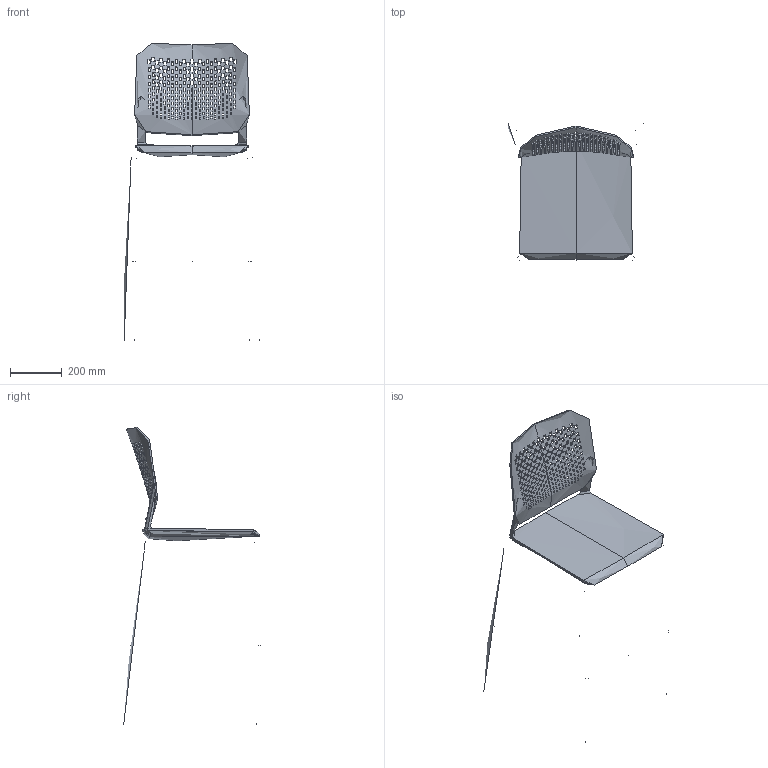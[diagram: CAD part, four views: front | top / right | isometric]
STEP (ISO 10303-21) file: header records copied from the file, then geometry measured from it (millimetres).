
FILE_DESCRIPTION(/* description */ (''),/* implementation_level */ '2;1');
FILE_NAME(/* name */ 'Time 175',/* time_stamp */ '2019-11-22T23:04:15+01:00',/* author */ (''),/* organization */ (''),/* preprocessor_version */ 'ST-DEVELOPER v16.5',/* originating_system */ '',/* authorisation */ '');
FILE_SCHEMA (('AUTOMOTIVE_DESIGN'));
Length unit declared in the file: millimetre
Products named in the file (1): Document
Bounding box: 523.92 x 527.82 x 1148.5 mm (x, y, z)
Surface area: 1250495.6 mm2 (no closed solid volume)
Topology: 0 solids, 10 shells, 1074 faces, 3185 edges, 2091 vertices
Faces by surface type: bspline 592, plane 482
Entity records: 58405 total; most frequent: CARTESIAN_POINT 37967, ORIENTED_EDGE 6324, EDGE_CURVE 3182, B_SPLINE_CURVE_WITH_KNOTS 3113, VERTEX_POINT 2089, EDGE_LOOP 1522, ADVANCED_FACE 1074, FACE_OUTER_BOUND 1074
